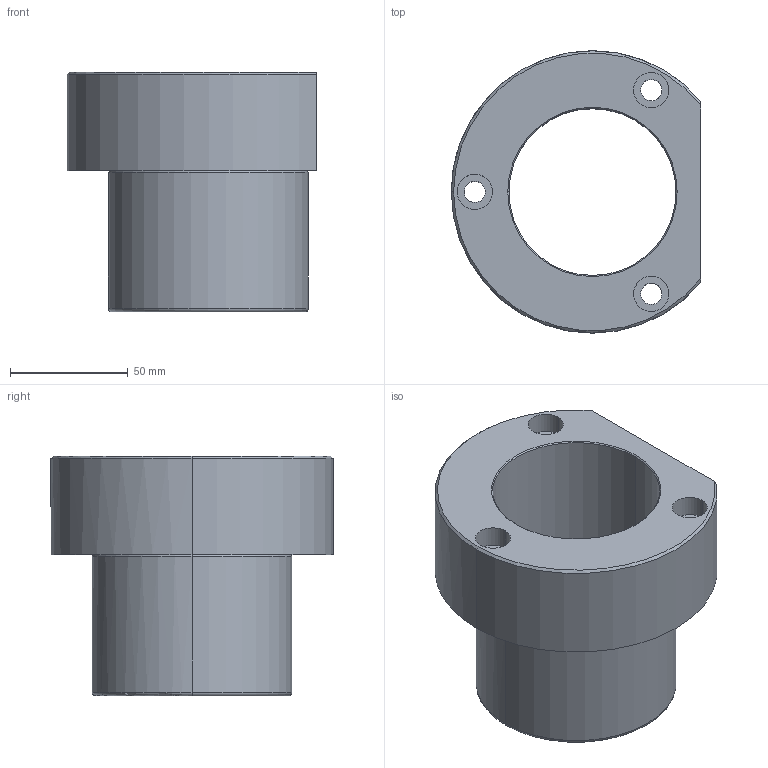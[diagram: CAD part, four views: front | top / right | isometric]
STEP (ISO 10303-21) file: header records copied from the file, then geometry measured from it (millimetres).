
FILE_DESCRIPTION(('CATIA V5 STEP Exchange'),'2;1');
FILE_NAME('C:\Users\Utente\Desktop\IO LAVORO\3D X SITO CF\X SITO\737\737-63.stp','2021-01-17T16:58:30+00:00',('none'),('none'),'CATIA Version 5 Release 20 GA (IN-10)','CATIA V5 STEP AP203','none');
FILE_SCHEMA(('CONFIG_CONTROL_DESIGN'));
Length unit declared in the file: millimetre
Products named in the file (1): 737-63
Bounding box: 106 x 120 x 102 mm (x, y, z)
Volume: 369012.9 mm3; surface area: 71187.5 mm2
Topology: 1 solids, 1 shells, 37 faces, 82 edges, 51 vertices
Faces by surface type: cylinder 18, plane 7, cone 6, torus 6
Entity records: 1250 total; most frequent: CARTESIAN_POINT 399, ORIENTED_EDGE 164, DIRECTION 144, AXIS2_PLACEMENT_3D 82, EDGE_CURVE 82, VERTEX_POINT 51, EDGE_LOOP 49, CIRCLE 44
